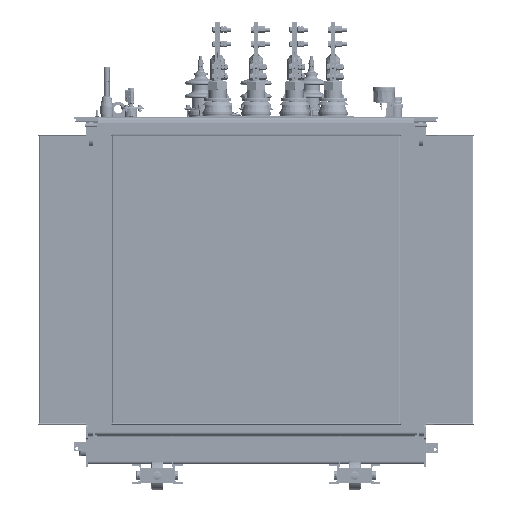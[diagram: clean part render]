
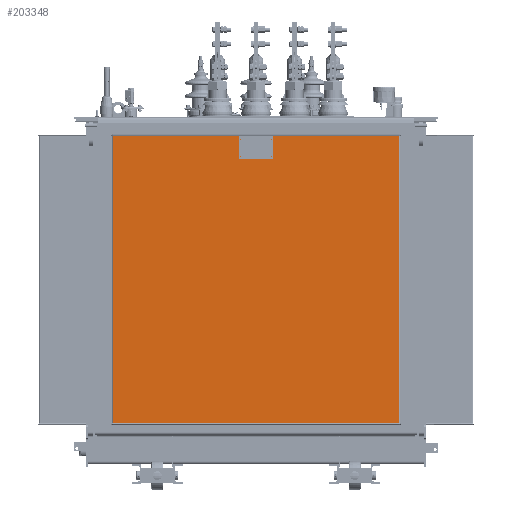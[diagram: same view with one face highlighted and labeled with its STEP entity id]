
A CAD part, front view. The second image highlights one B-rep face of the part: STEP entity #203348.
In plain terms, the highlighted planar face has unit normal (0, 1, 0).
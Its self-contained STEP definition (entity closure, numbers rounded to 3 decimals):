
#15803=PLANE('',#220456);
#26628=FACE_OUTER_BOUND('',#38837,.T.);
#38837=EDGE_LOOP('',(#181031,#181032,#181033,#181034));
#61489=LINE('',#405383,#76351);
#61490=LINE('',#405387,#76352);
#61491=LINE('',#405389,#76353);
#61492=LINE('',#405390,#76354);
#76351=VECTOR('',#269220,10.);
#76352=VECTOR('',#269225,10.);
#76353=VECTOR('',#269226,10.);
#76354=VECTOR('',#269227,10.);
#96105=VERTEX_POINT('',#405380);
#96106=VERTEX_POINT('',#405382);
#96107=VERTEX_POINT('',#405386);
#96108=VERTEX_POINT('',#405388);
#124424=EDGE_CURVE('',#96105,#96106,#61489,.T.);
#124426=EDGE_CURVE('',#96107,#96105,#61490,.T.);
#124427=EDGE_CURVE('',#96107,#96108,#61491,.T.);
#124428=EDGE_CURVE('',#96108,#96106,#61492,.T.);
#181031=ORIENTED_EDGE('',*,*,#124426,.F.);
#181032=ORIENTED_EDGE('',*,*,#124427,.T.);
#181033=ORIENTED_EDGE('',*,*,#124428,.T.);
#181034=ORIENTED_EDGE('',*,*,#124424,.F.);
#203348=ADVANCED_FACE('',(#26628),#15803,.F.);
#220456=AXIS2_PLACEMENT_3D('',#405385,#269223,#269224);
#269220=DIRECTION('',(0.,0.,1.));
#269223=DIRECTION('center_axis',(0.,-1.,0.));
#269224=DIRECTION('ref_axis',(1.,0.,0.));
#269225=DIRECTION('',(1.,0.,0.));
#269226=DIRECTION('',(0.,0.,1.));
#269227=DIRECTION('',(1.,0.,0.));
#405380=CARTESIAN_POINT('',(594.,-614.4,167.));
#405382=CARTESIAN_POINT('',(594.,-614.4,1367.));
#405383=CARTESIAN_POINT('',(594.,-614.4,167.));
#405385=CARTESIAN_POINT('Origin',(-594.,-614.4,167.));
#405386=CARTESIAN_POINT('',(-594.,-614.4,167.));
#405387=CARTESIAN_POINT('',(-594.,-614.4,167.));
#405388=CARTESIAN_POINT('',(-594.,-614.4,1367.));
#405389=CARTESIAN_POINT('',(-594.,-614.4,167.));
#405390=CARTESIAN_POINT('',(-594.,-614.4,1367.));
